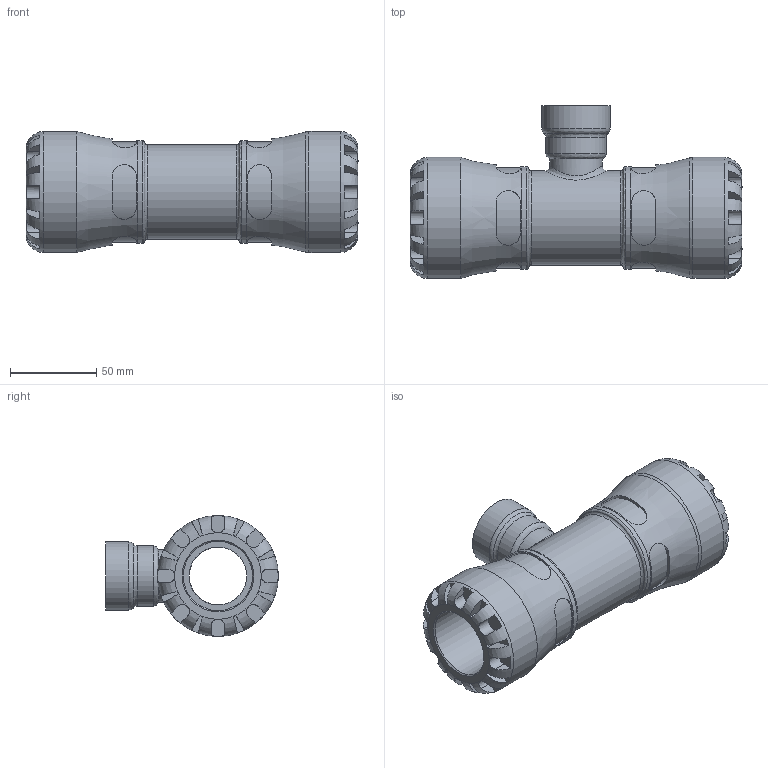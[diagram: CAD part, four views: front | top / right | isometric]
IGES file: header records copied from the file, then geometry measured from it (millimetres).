
Global section: file name: 101400040010_191400040010.ipt; native system: Autodesk Inventor 2015; preprocessor: unknown; author: KIM; date: 20191029.101455; units: millimetre
Bounding box: 192 x 100 x 70 mm (x, y, z)
Volume: 362723.5 mm3; surface area: 78287.3 mm2
Topology: 1 solids, 1 shells, 202 faces, 527 edges, 337 vertices
Faces by surface type: plane 118, revolution 51, cylinder 32, bspline 1
Full cylindrical faces by diameter (mm): 30.291 x1, 34.835 x1, 39.378 x1, 54.6 x1, 59.5 x2, 70 x2
